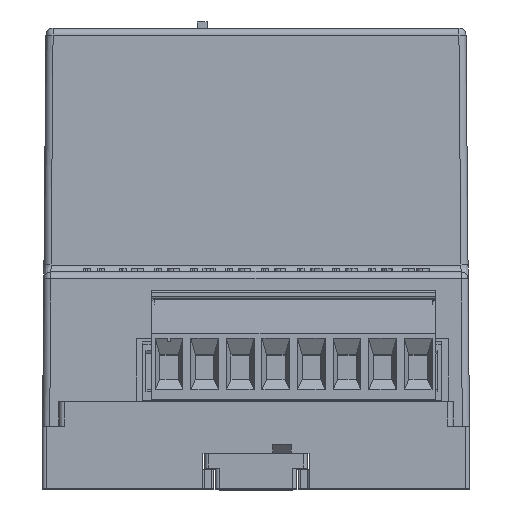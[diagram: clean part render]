
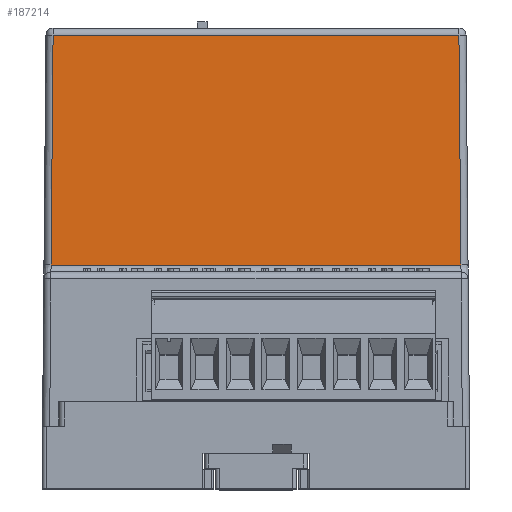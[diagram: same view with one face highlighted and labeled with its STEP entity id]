
A CAD part, top view. The second image highlights one B-rep face of the part: STEP entity #187214.
In plain terms, the highlighted planar face has unit normal (0, 0.009, 1).
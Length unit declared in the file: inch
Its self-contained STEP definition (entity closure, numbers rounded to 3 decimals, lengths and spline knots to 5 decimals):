
#332 = EDGE_CURVE ( 'NONE', #186768, #66075, #53457, .T. ) ;
#9507 = EDGE_CURVE ( 'NONE', #37575, #186768, #14790, .T. ) ;
#14790 = LINE ( 'NONE', #181305, #20836 ) ;
#19046 = CARTESIAN_POINT ( 'NONE',  ( -1.12283, 2.51215, 1.16966 ) ) ;
#20836 = VECTOR ( 'NONE', #237282, 39.37008 ) ;
#27689 = DIRECTION ( 'NONE',  ( -1., 0., 0. ) ) ;
#37575 = VERTEX_POINT ( 'NONE', #19046 ) ;
#53457 = LINE ( 'NONE', #91884, #235807 ) ;
#53743 = DIRECTION ( 'NONE',  ( 1., 0., 0. ) ) ;
#53751 = EDGE_LOOP ( 'NONE', ( #220602, #91189, #119452, #244725 ) ) ;
#58260 = EDGE_CURVE ( 'NONE', #131054, #37575, #223933, .T. ) ;
#64157 = CARTESIAN_POINT ( 'NONE',  ( -1.1811, 2.51215, 1.16966 ) ) ;
#66075 = VERTEX_POINT ( 'NONE', #68964 ) ;
#67915 = CARTESIAN_POINT ( 'NONE',  ( 1.12232, 2.57128, 1.16914 ) ) ;
#68964 = CARTESIAN_POINT ( 'NONE',  ( 1.13394, 1.23981, 1.18076 ) ) ;
#78251 = CARTESIAN_POINT ( 'NONE',  ( 1.12283, 2.51215, 1.16966 ) ) ;
#91189 = ORIENTED_EDGE ( 'NONE', *, *, #58260, .T. ) ;
#91884 = CARTESIAN_POINT ( 'NONE',  ( 1.17365, 1.23981, 1.18076 ) ) ;
#102896 = CARTESIAN_POINT ( 'NONE',  ( -1.1811, 2.55118, 1.16932 ) ) ;
#106189 = DIRECTION ( 'NONE',  ( 0., 1., -0.009 ) ) ;
#119452 = ORIENTED_EDGE ( 'NONE', *, *, #9507, .T. ) ;
#126553 = DIRECTION ( 'NONE',  ( -0.009, 1., -0.009 ) ) ;
#131054 = VERTEX_POINT ( 'NONE', #78251 ) ;
#142832 = DIRECTION ( 'NONE',  ( 0., -0.009, -1. ) ) ;
#157479 = FACE_OUTER_BOUND ( 'NONE', #53751, .T. ) ;
#158814 = EDGE_CURVE ( 'NONE', #66075, #131054, #220105, .T. ) ;
#181305 = CARTESIAN_POINT ( 'NONE',  ( -1.1225, 2.55067, 1.16932 ) ) ;
#186768 = VERTEX_POINT ( 'NONE', #237560 ) ;
#187214 = ADVANCED_FACE ( 'NONE', ( #157479 ), #221128, .F. ) ;
#196671 = VECTOR ( 'NONE', #27689, 39.37008 ) ;
#205039 = VECTOR ( 'NONE', #126553, 39.37008 ) ;
#220105 = LINE ( 'NONE', #67915, #205039 ) ;
#220602 = ORIENTED_EDGE ( 'NONE', *, *, #158814, .T. ) ;
#221128 = PLANE ( 'NONE',  #223187 ) ;
#223187 = AXIS2_PLACEMENT_3D ( 'NONE', #102896, #142832, #106189 ) ;
#223933 = LINE ( 'NONE', #64157, #196671 ) ;
#235807 = VECTOR ( 'NONE', #53743, 39.37008 ) ;
#237282 = DIRECTION ( 'NONE',  ( -0.009, -1., 0.009 ) ) ;
#237560 = CARTESIAN_POINT ( 'NONE',  ( -1.13394, 1.23981, 1.18076 ) ) ;
#244725 = ORIENTED_EDGE ( 'NONE', *, *, #332, .T. ) ;
